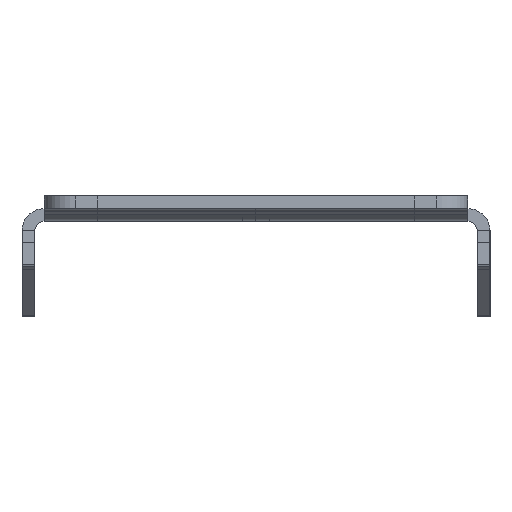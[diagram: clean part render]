
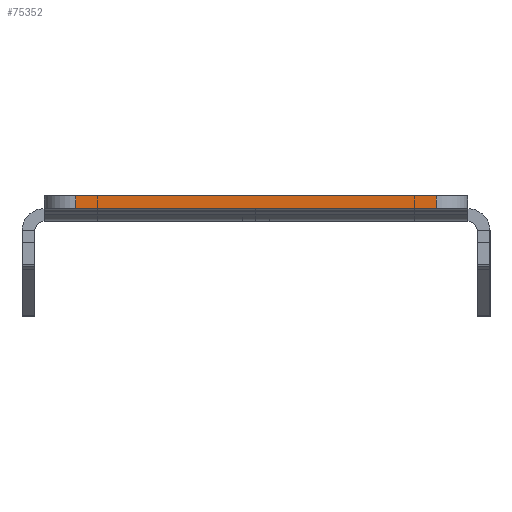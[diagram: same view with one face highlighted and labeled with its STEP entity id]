
A CAD part, left-side view. The second image highlights one B-rep face of the part: STEP entity #75352.
In plain terms, the highlighted planar face has unit normal (-1, 0, 0).
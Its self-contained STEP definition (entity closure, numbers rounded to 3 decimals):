
#5027 = ORIENTED_EDGE ( 'NONE', *, *, #86399, .T. ) ;
#7479 = LINE ( 'NONE', #55937, #23168 ) ;
#7563 = DIRECTION ( 'NONE',  ( 0., 1., 0. ) ) ;
#8913 = EDGE_LOOP ( 'NONE', ( #55741, #35678, #11833, #5027 ) ) ;
#9558 = CARTESIAN_POINT ( 'NONE',  ( -776.002, 0., 7.531 ) ) ;
#9623 = FACE_OUTER_BOUND ( 'NONE', #8913, .T. ) ;
#10854 = LINE ( 'NONE', #56049, #43918 ) ;
#11825 = EDGE_CURVE ( 'NONE', #33698, #47313, #84255, .T. ) ;
#11833 = ORIENTED_EDGE ( 'NONE', *, *, #75623, .T. ) ;
#13287 = DIRECTION ( 'NONE',  ( 0., 0., 1. ) ) ;
#14947 = LINE ( 'NONE', #44911, #65069 ) ;
#17978 = DIRECTION ( 'NONE',  ( -1., 0., 0. ) ) ;
#18446 = CARTESIAN_POINT ( 'NONE',  ( -776.002, 33.5, 9.531 ) ) ;
#18806 = VERTEX_POINT ( 'NONE', #51613 ) ;
#23168 = VECTOR ( 'NONE', #25986, 1000. ) ;
#25986 = DIRECTION ( 'NONE',  ( 0., 0., -1. ) ) ;
#33698 = VERTEX_POINT ( 'NONE', #85595 ) ;
#35678 = ORIENTED_EDGE ( 'NONE', *, *, #84837, .T. ) ;
#39610 = DIRECTION ( 'NONE',  ( 0., 0., 1. ) ) ;
#43918 = VECTOR ( 'NONE', #13287, 1000. ) ;
#44911 = CARTESIAN_POINT ( 'NONE',  ( -776.002, 33.5, 9.531 ) ) ;
#47313 = VERTEX_POINT ( 'NONE', #51534 ) ;
#51534 = CARTESIAN_POINT ( 'NONE',  ( -776.002, 28.5, 7.531 ) ) ;
#51613 = CARTESIAN_POINT ( 'NONE',  ( -776.002, -28.5, 9.531 ) ) ;
#55741 = ORIENTED_EDGE ( 'NONE', *, *, #11825, .F. ) ;
#55937 = CARTESIAN_POINT ( 'NONE',  ( -776.002, 28.5, 9.531 ) ) ;
#56049 = CARTESIAN_POINT ( 'NONE',  ( -776.002, -28.5, 9.531 ) ) ;
#61649 = DIRECTION ( 'NONE',  ( 0., 1., 0. ) ) ;
#65069 = VECTOR ( 'NONE', #7563, 1000. ) ;
#73367 = CARTESIAN_POINT ( 'NONE',  ( -776.002, 28.5, 9.531 ) ) ;
#75352 = ADVANCED_FACE ( 'NONE', ( #9623 ), #92668, .T. ) ;
#75623 = EDGE_CURVE ( 'NONE', #18806, #77600, #14947, .T. ) ;
#77600 = VERTEX_POINT ( 'NONE', #73367 ) ;
#84255 = LINE ( 'NONE', #9558, #92573 ) ;
#84837 = EDGE_CURVE ( 'NONE', #33698, #18806, #10854, .T. ) ;
#85595 = CARTESIAN_POINT ( 'NONE',  ( -776.002, -28.5, 7.531 ) ) ;
#86399 = EDGE_CURVE ( 'NONE', #77600, #47313, #7479, .T. ) ;
#91686 = AXIS2_PLACEMENT_3D ( 'NONE', #18446, #17978, #39610 ) ;
#92573 = VECTOR ( 'NONE', #61649, 1000. ) ;
#92668 = PLANE ( 'NONE',  #91686 ) ;
